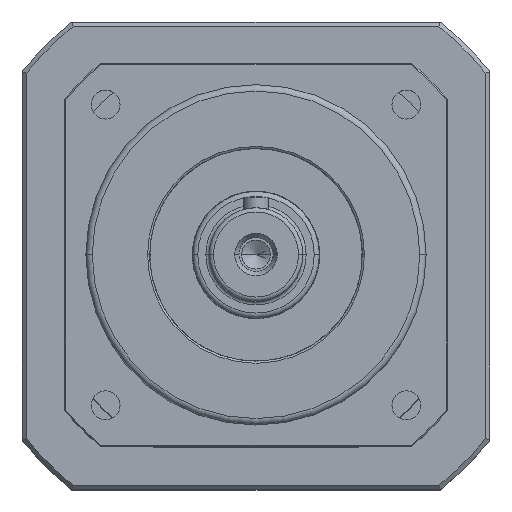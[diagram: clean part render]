
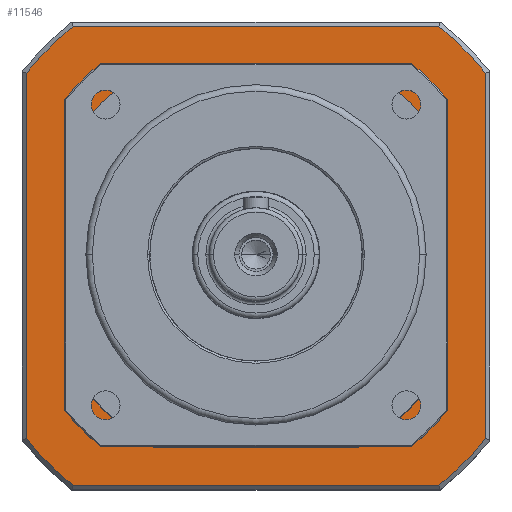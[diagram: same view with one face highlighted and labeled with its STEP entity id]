
A CAD part, top view. The second image highlights one B-rep face of the part: STEP entity #11546.
In plain terms, the highlighted planar face has unit normal (0, 0, 1).
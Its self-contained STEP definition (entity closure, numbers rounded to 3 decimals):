
#15 = VERTEX_POINT ( 'NONE', #11706 ) ;
#16 = VERTEX_POINT ( 'NONE', #11707 ) ;
#17 = VERTEX_POINT ( 'NONE', #11708 ) ;
#18 = VERTEX_POINT ( 'NONE', #11709 ) ;
#19 = VERTEX_POINT ( 'NONE', #11710 ) ;
#20 = VERTEX_POINT ( 'NONE', #11711 ) ;
#21 = VERTEX_POINT ( 'NONE', #11712 ) ;
#22 = VERTEX_POINT ( 'NONE', #11713 ) ;
#23 = VERTEX_POINT ( 'NONE', #11714 ) ;
#24 = VERTEX_POINT ( 'NONE', #11715 ) ;
#25 = VERTEX_POINT ( 'NONE', #11716 ) ;
#26 = VERTEX_POINT ( 'NONE', #11717 ) ;
#27 = VERTEX_POINT ( 'NONE', #11718 ) ;
#28 = VERTEX_POINT ( 'NONE', #11719 ) ;
#29 = VERTEX_POINT ( 'NONE', #11720 ) ;
#30 = VERTEX_POINT ( 'NONE', #11721 ) ;
#3442 = CIRCLE ( 'NONE', #3451, 69. ) ;
#3444 = CIRCLE ( 'NONE', #3453, 69. ) ;
#3446 = CIRCLE ( 'NONE', #3455, 69. ) ;
#3447 = CIRCLE ( 'NONE', #3449, 69. ) ;
#3448 = VECTOR ( 'NONE', #8374, 1000. ) ;
#3449 = AXIS2_PLACEMENT_3D ( 'NONE', #8375, #8376, #8377 ) ;
#3450 = CIRCLE ( 'NONE', #3456, 51. ) ;
#3451 = AXIS2_PLACEMENT_3D ( 'NONE', #8378, #8379, #8380 ) ;
#3452 = VECTOR ( 'NONE', #8382, 1000. ) ;
#3453 = AXIS2_PLACEMENT_3D ( 'NONE', #8383, #8384, #8385 ) ;
#3454 = VECTOR ( 'NONE', #8387, 1000. ) ;
#3455 = AXIS2_PLACEMENT_3D ( 'NONE', #8388, #8389, #8390 ) ;
#3456 = AXIS2_PLACEMENT_3D ( 'NONE', #8391, #8392, #8393 ) ;
#3457 = VECTOR ( 'NONE', #8395, 1000. ) ;
#3458 = CIRCLE ( 'NONE', #3467, 51. ) ;
#3459 = VECTOR ( 'NONE', #8397, 1000. ) ;
#3460 = CIRCLE ( 'NONE', #3462, 51. ) ;
#3461 = VECTOR ( 'NONE', #8399, 1000. ) ;
#3462 = AXIS2_PLACEMENT_3D ( 'NONE', #8400, #8401, #8402 ) ;
#3463 = CIRCLE ( 'NONE', #3465, 51. ) ;
#3464 = VECTOR ( 'NONE', #8404, 1000. ) ;
#3465 = AXIS2_PLACEMENT_3D ( 'NONE', #8405, #8406, #8407 ) ;
#3466 = VECTOR ( 'NONE', #8409, 1000. ) ;
#3467 = AXIS2_PLACEMENT_3D ( 'NONE', #8410, #8411, #8412 ) ;
#7633 = ORIENTED_EDGE ( 'NONE', *, *, #7703, .T. ) ;
#7634 = ORIENTED_EDGE ( 'NONE', *, *, #7704, .T. ) ;
#7635 = ORIENTED_EDGE ( 'NONE', *, *, #7702, .T. ) ;
#7636 = ORIENTED_EDGE ( 'NONE', *, *, #7705, .T. ) ;
#7637 = ORIENTED_EDGE ( 'NONE', *, *, #7706, .T. ) ;
#7638 = ORIENTED_EDGE ( 'NONE', *, *, #7707, .T. ) ;
#7639 = ORIENTED_EDGE ( 'NONE', *, *, #7708, .T. ) ;
#7640 = ORIENTED_EDGE ( 'NONE', *, *, #7710, .T. ) ;
#7641 = ORIENTED_EDGE ( 'NONE', *, *, #7711, .F. ) ;
#7642 = ORIENTED_EDGE ( 'NONE', *, *, #7712, .F. ) ;
#7643 = ORIENTED_EDGE ( 'NONE', *, *, #7709, .F. ) ;
#7644 = ORIENTED_EDGE ( 'NONE', *, *, #7713, .F. ) ;
#7645 = ORIENTED_EDGE ( 'NONE', *, *, #7714, .F. ) ;
#7646 = ORIENTED_EDGE ( 'NONE', *, *, #7715, .F. ) ;
#7647 = ORIENTED_EDGE ( 'NONE', *, *, #7716, .F. ) ;
#7648 = ORIENTED_EDGE ( 'NONE', *, *, #7717, .F. ) ;
#7702 = EDGE_CURVE ( 'NONE', #16, #17, #18104, .T. ) ;
#7703 = EDGE_CURVE ( 'NONE', #15, #16, #3447, .T. ) ;
#7704 = EDGE_CURVE ( 'NONE', #17, #18, #3442, .T. ) ;
#7705 = EDGE_CURVE ( 'NONE', #18, #19, #18105, .T. ) ;
#7706 = EDGE_CURVE ( 'NONE', #19, #20, #3444, .T. ) ;
#7707 = EDGE_CURVE ( 'NONE', #20, #21, #18106, .T. ) ;
#7708 = EDGE_CURVE ( 'NONE', #21, #22, #3446, .T. ) ;
#7709 = EDGE_CURVE ( 'NONE', #25, #23, #3450, .T. ) ;
#7710 = EDGE_CURVE ( 'NONE', #22, #15, #18107, .T. ) ;
#7711 = EDGE_CURVE ( 'NONE', #23, #24, #18108, .T. ) ;
#7712 = EDGE_CURVE ( 'NONE', #26, #25, #18109, .T. ) ;
#7713 = EDGE_CURVE ( 'NONE', #27, #26, #3460, .T. ) ;
#7714 = EDGE_CURVE ( 'NONE', #28, #27, #18110, .T. ) ;
#7715 = EDGE_CURVE ( 'NONE', #29, #28, #3463, .T. ) ;
#7716 = EDGE_CURVE ( 'NONE', #30, #29, #18111, .T. ) ;
#7717 = EDGE_CURVE ( 'NONE', #24, #30, #3458, .T. ) ;
#8373 = CARTESIAN_POINT ( 'NONE',  ( 54., 0., -134. ) ) ;
#8374 = DIRECTION ( 'NONE',  ( 0., 1., 0. ) ) ;
#8375 = CARTESIAN_POINT ( 'NONE',  ( 0., 0., -134. ) ) ;
#8376 = DIRECTION ( 'NONE',  ( 0., 0., 1. ) ) ;
#8377 = DIRECTION ( 'NONE',  ( 1., 0., 0. ) ) ;
#8378 = CARTESIAN_POINT ( 'NONE',  ( 0., 0., -134. ) ) ;
#8379 = DIRECTION ( 'NONE',  ( 0., 0., 1. ) ) ;
#8380 = DIRECTION ( 'NONE',  ( 1., 0., 0. ) ) ;
#8381 = CARTESIAN_POINT ( 'NONE',  ( 0., 54., -134. ) ) ;
#8382 = DIRECTION ( 'NONE',  ( -1., 0., 0. ) ) ;
#8383 = CARTESIAN_POINT ( 'NONE',  ( 0., 0., -134. ) ) ;
#8384 = DIRECTION ( 'NONE',  ( 0., 0., 1. ) ) ;
#8385 = DIRECTION ( 'NONE',  ( 1., 0., 0. ) ) ;
#8386 = CARTESIAN_POINT ( 'NONE',  ( -54., 0., -134. ) ) ;
#8387 = DIRECTION ( 'NONE',  ( 0., -1., 0. ) ) ;
#8388 = CARTESIAN_POINT ( 'NONE',  ( 0., 0., -134. ) ) ;
#8389 = DIRECTION ( 'NONE',  ( 0., 0., 1. ) ) ;
#8390 = DIRECTION ( 'NONE',  ( 1., 0., 0. ) ) ;
#8391 = CARTESIAN_POINT ( 'NONE',  ( 0., 0., -134. ) ) ;
#8392 = DIRECTION ( 'NONE',  ( 0., 0., 1. ) ) ;
#8393 = DIRECTION ( 'NONE',  ( 1., 0., 0. ) ) ;
#8394 = CARTESIAN_POINT ( 'NONE',  ( 0., -54., -134. ) ) ;
#8395 = DIRECTION ( 'NONE',  ( 1., 0., 0. ) ) ;
#8396 = CARTESIAN_POINT ( 'NONE',  ( -45., 24., -134. ) ) ;
#8397 = DIRECTION ( 'NONE',  ( 0., -1., 0. ) ) ;
#8398 = CARTESIAN_POINT ( 'NONE',  ( -24., 45., -134. ) ) ;
#8399 = DIRECTION ( 'NONE',  ( -1., 0., 0. ) ) ;
#8400 = CARTESIAN_POINT ( 'NONE',  ( 0., 0., -134. ) ) ;
#8401 = DIRECTION ( 'NONE',  ( 0., 0., 1. ) ) ;
#8402 = DIRECTION ( 'NONE',  ( 1., 0., 0. ) ) ;
#8403 = CARTESIAN_POINT ( 'NONE',  ( 45., 24., -134. ) ) ;
#8404 = DIRECTION ( 'NONE',  ( 0., 1., 0. ) ) ;
#8405 = CARTESIAN_POINT ( 'NONE',  ( 0., 0., -134. ) ) ;
#8406 = DIRECTION ( 'NONE',  ( 0., 0., 1. ) ) ;
#8407 = DIRECTION ( 'NONE',  ( 1., 0., 0. ) ) ;
#8408 = CARTESIAN_POINT ( 'NONE',  ( -24., -45., -134. ) ) ;
#8409 = DIRECTION ( 'NONE',  ( 1., 0., 0. ) ) ;
#8410 = CARTESIAN_POINT ( 'NONE',  ( 0., 0., -134. ) ) ;
#8411 = DIRECTION ( 'NONE',  ( 0., 0., 1. ) ) ;
#8412 = DIRECTION ( 'NONE',  ( 1., 0., 0. ) ) ;
#11546 = ADVANCED_FACE ( 'NONE', ( #12918, #12919 ), #16911, .T. ) ;
#11706 = CARTESIAN_POINT ( 'NONE',  ( 42.953, -54., -134. ) ) ;
#11707 = CARTESIAN_POINT ( 'NONE',  ( 54., -42.953, -134. ) ) ;
#11708 = CARTESIAN_POINT ( 'NONE',  ( 54., 42.953, -134. ) ) ;
#11709 = CARTESIAN_POINT ( 'NONE',  ( 42.953, 54., -134. ) ) ;
#11710 = CARTESIAN_POINT ( 'NONE',  ( -42.953, 54., -134. ) ) ;
#11711 = CARTESIAN_POINT ( 'NONE',  ( -54., 42.953, -134. ) ) ;
#11712 = CARTESIAN_POINT ( 'NONE',  ( -54., -42.953, -134. ) ) ;
#11713 = CARTESIAN_POINT ( 'NONE',  ( -42.953, -54., -134. ) ) ;
#11714 = CARTESIAN_POINT ( 'NONE',  ( -45., 24., -134. ) ) ;
#11715 = CARTESIAN_POINT ( 'NONE',  ( -45., -24., -134. ) ) ;
#11716 = CARTESIAN_POINT ( 'NONE',  ( -24., 45., -134. ) ) ;
#11717 = CARTESIAN_POINT ( 'NONE',  ( 24., 45., -134. ) ) ;
#11718 = CARTESIAN_POINT ( 'NONE',  ( 45., 24., -134. ) ) ;
#11719 = CARTESIAN_POINT ( 'NONE',  ( 45., -24., -134. ) ) ;
#11720 = CARTESIAN_POINT ( 'NONE',  ( 24., -45., -134. ) ) ;
#11721 = CARTESIAN_POINT ( 'NONE',  ( -24., -45., -134. ) ) ;
#11992 = EDGE_LOOP ( 'NONE', ( #7633, #7635, #7634, #7636, #7637, #7638, #7639, #7640 ) ) ;
#11993 = EDGE_LOOP ( 'NONE', ( #7641, #7643, #7642, #7644, #7645, #7646, #7647, #7648 ) ) ;
#12847 = AXIS2_PLACEMENT_3D ( 'NONE', #16912, #16913, #16914 ) ;
#12918 = FACE_OUTER_BOUND ( 'NONE', #11992, .T. ) ;
#12919 = FACE_BOUND ( 'NONE', #11993, .T. ) ;
#16911 = PLANE ( 'NONE',  #12847 ) ;
#16912 = CARTESIAN_POINT ( 'NONE',  ( 0., 0., -134. ) ) ;
#16913 = DIRECTION ( 'NONE',  ( 0., 0., 1. ) ) ;
#16914 = DIRECTION ( 'NONE',  ( 1., 0., 0. ) ) ;
#18104 = LINE ( 'NONE', #8373, #3448 ) ;
#18105 = LINE ( 'NONE', #8381, #3452 ) ;
#18106 = LINE ( 'NONE', #8386, #3454 ) ;
#18107 = LINE ( 'NONE', #8394, #3457 ) ;
#18108 = LINE ( 'NONE', #8396, #3459 ) ;
#18109 = LINE ( 'NONE', #8398, #3461 ) ;
#18110 = LINE ( 'NONE', #8403, #3464 ) ;
#18111 = LINE ( 'NONE', #8408, #3466 ) ;
